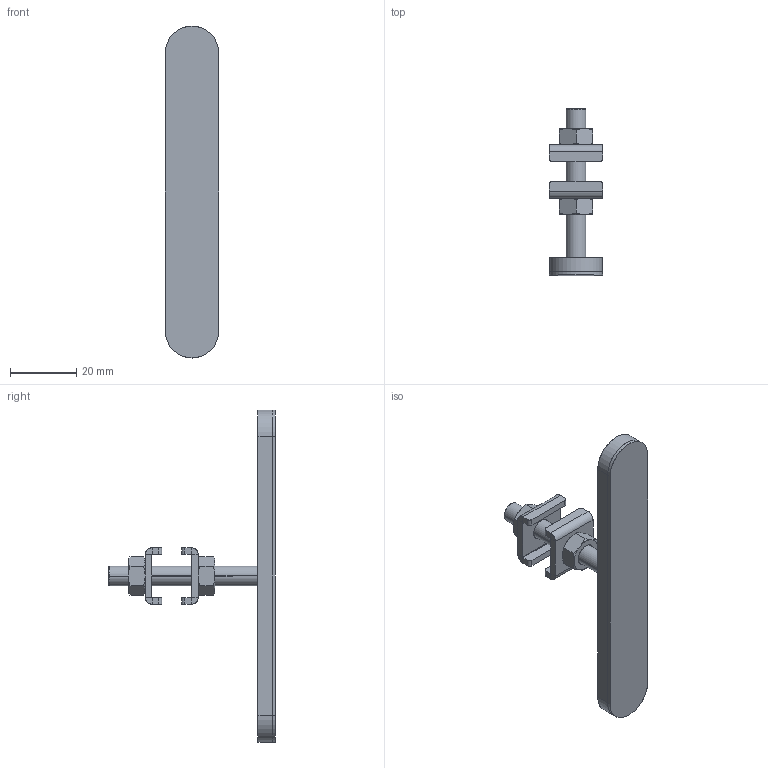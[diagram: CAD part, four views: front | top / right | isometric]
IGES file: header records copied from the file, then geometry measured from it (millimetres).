
Start section: SolidWorks IGES file using analytic representation for surfaces
Global section: file name: C:\Projetos\Ponteiras\PFA\PFA-M6.IGS; native system: SolidWorks 2011; preprocessor: SolidWorks 2011; author: Usuario; date: 110524.101442; units: millimetre
Bounding box: 16 x 50.25 x 100 mm (x, y, z)
Surface area: 10612.8 mm2 (no closed solid volume)
Topology: 0 solids, 0 shells, 128 faces, 1472 edges, 1472 vertices
Faces by surface type: revolution 66, bspline 62
